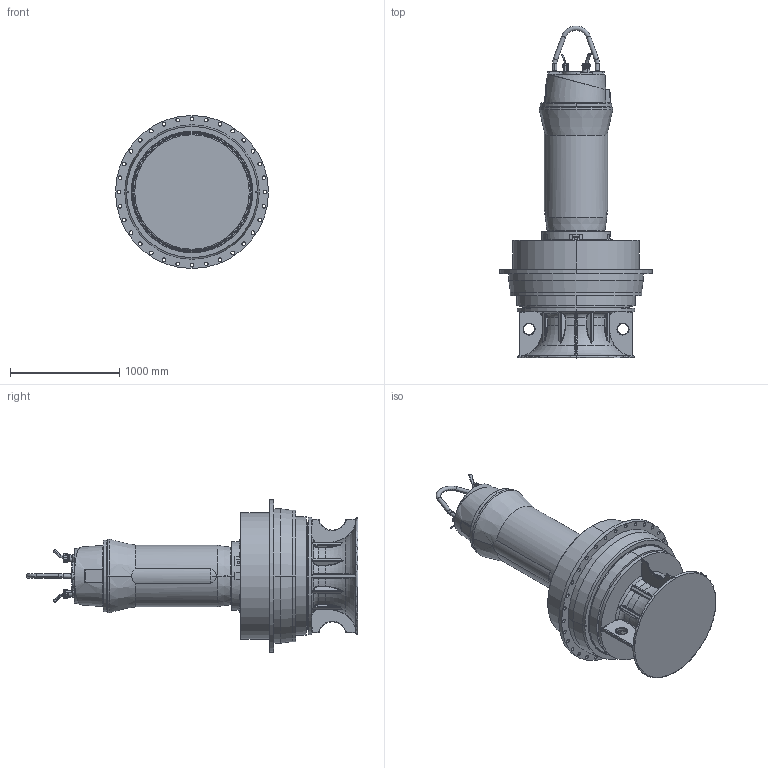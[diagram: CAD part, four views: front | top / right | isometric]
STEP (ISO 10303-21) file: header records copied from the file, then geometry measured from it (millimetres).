
FILE_DESCRIPTION (( 'STEP AP214' ), '1' );
FILE_NAME ('PE6_AFLX12107_DIN_C_NG2.STEP', '2017-04-28T11:09:58', ( '' ), ( '' ), 'SwSTEP 2.0', 'SolidWorks 2017', '' );
FILE_SCHEMA (( 'AUTOMOTIVE_DESIGN' ));
Length unit declared in the file: millimetre
Products named in the file (1): PE6_AFLX12107_DIN_C_NG2
Bounding box: 1400 x 3037.1 x 1400 mm (x, y, z)
Volume: 1223267345.7 mm3; surface area: 14025600.5 mm2
Topology: 4 solids, 25 shells, 2702 faces, 6528 edges, 3778 vertices
Faces by surface type: bspline 715, plane 671, cylinder 611, torus 295, cone 283, sphere 127
Entity records: 676275 total; most frequent: CARTESIAN_POINT 589568, ORIENTED_EDGE 12672, DIRECTION 10792, EDGE_CURVE 6336, AXIS2_PLACEMENT_3D 4405, VERTEX_POINT 3777, EDGE_LOOP 2923, UNCERTAINTY_MEASURE_WITH_UNIT 2708
